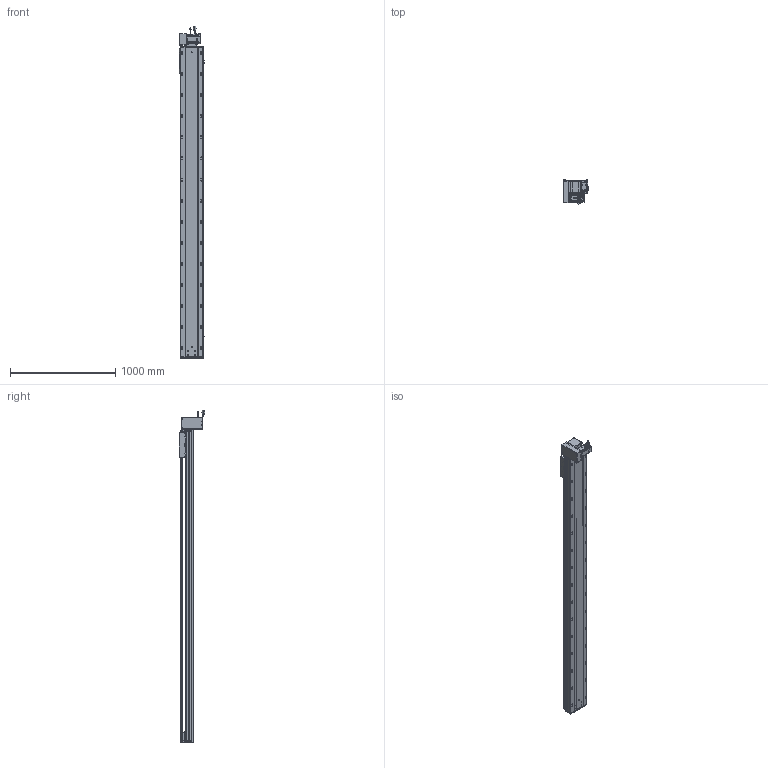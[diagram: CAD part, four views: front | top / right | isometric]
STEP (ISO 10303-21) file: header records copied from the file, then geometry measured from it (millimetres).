
FILE_DESCRIPTION (( 'STEP AP203' ), '1' );
FILE_NAME ('RY220-T-300-DL.SLDASM_2600.step', '2022-07-25T07:54:56', ( '' ), ( '' ), 'SwSTEP 2.0', 'SolidWorks 2016', '' );
FILE_SCHEMA (( 'CONFIG_CONTROL_DESIGN' ));
Length unit declared in the file: millimetre
Products named in the file (14): RY220翋肮祭謫釱; RY220-俋离672覜茼んえ; 滅袉蝶18-15; RY220-T-300-DL.SLDASM_2600; RY220翋肮祭謫裔啣; RY220-同步轮副支撑座6304×2; RY220-T-300-奻裔啣_2600; 110A-T-肮祭謫釱傷裔; RY220-T菁釱-300_2600; 怢湛750W_ECMA-CX0807ES; RY220-T-湍謫欶(鍼踢); RY220圉猾敕々湍臏賑輸; RY220-T-蛌殏萇儂假蚾啣(750W); 覜茼ん672
Assembly tree (18 placements, depth 2):
  RY220-T-300-DL.SLDASM_2600
    RY220-T菁釱-300_2600
    RY220翋肮祭謫釱
    覜茼ん672  x3
    RY220圉猾敕々湍臏賑輸
    RY220-T-300-奻裔啣_2600
    RY220-俋离672覜茼んえ
    滅袉蝶18-15  x3
    RY220翋肮祭謫裔啣  x2
    110A-T-肮祭謫釱傷裔
    怢湛750W_ECMA-CX0807ES
    RY220-T-湍謫欶(鍼踢)
    RY220-T-蛌殏萇儂假蚾啣(750W)
    RY220-同步轮副支撑座6304×2
Bounding box: 239.7 x 240.74 x 3153.27 mm (x, y, z)
Volume: 22616858.7 mm3; surface area: 6954828 mm2
Topology: 19 solids, 19 shells, 2944 faces, 8139 edges, 5106 vertices
Faces by surface type: cylinder 1440, plane 1069, cone 353, bspline 56, sphere 16, torus 10
Entity records: 98099 total; most frequent: CARTESIAN_POINT 27705, ORIENTED_EDGE 14554, DIRECTION 14012, EDGE_CURVE 7277, AXIS2_PLACEMENT_3D 5042, VERTEX_POINT 4730, VECTOR 3928, LINE 3928
